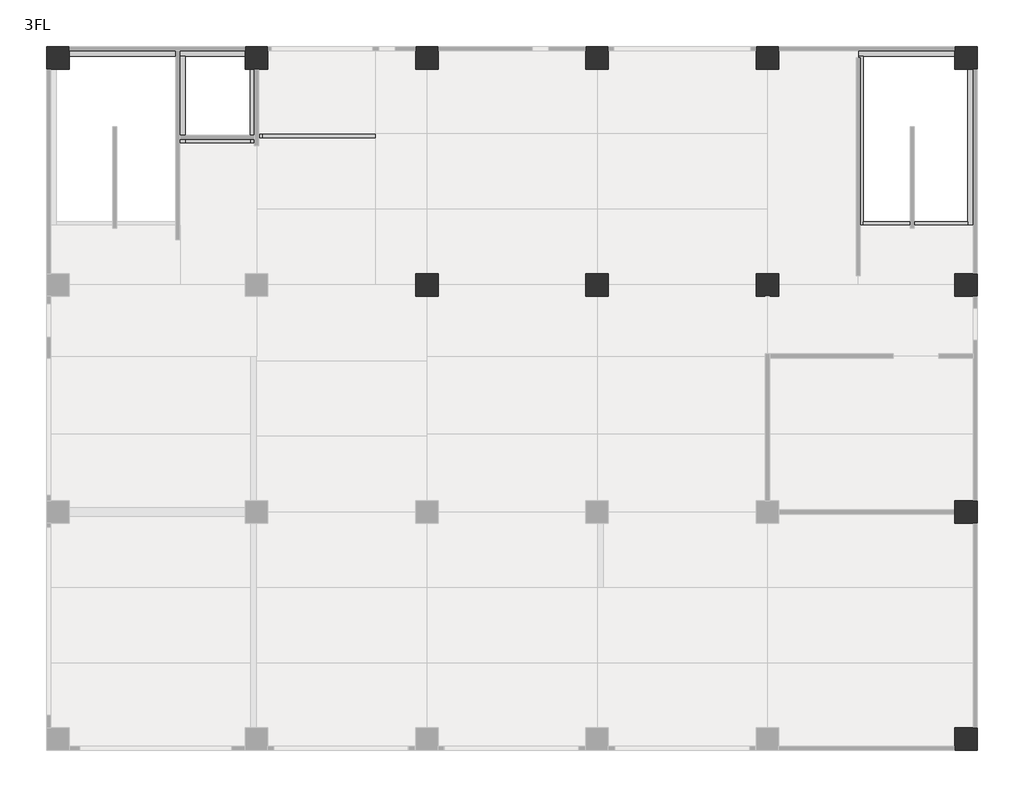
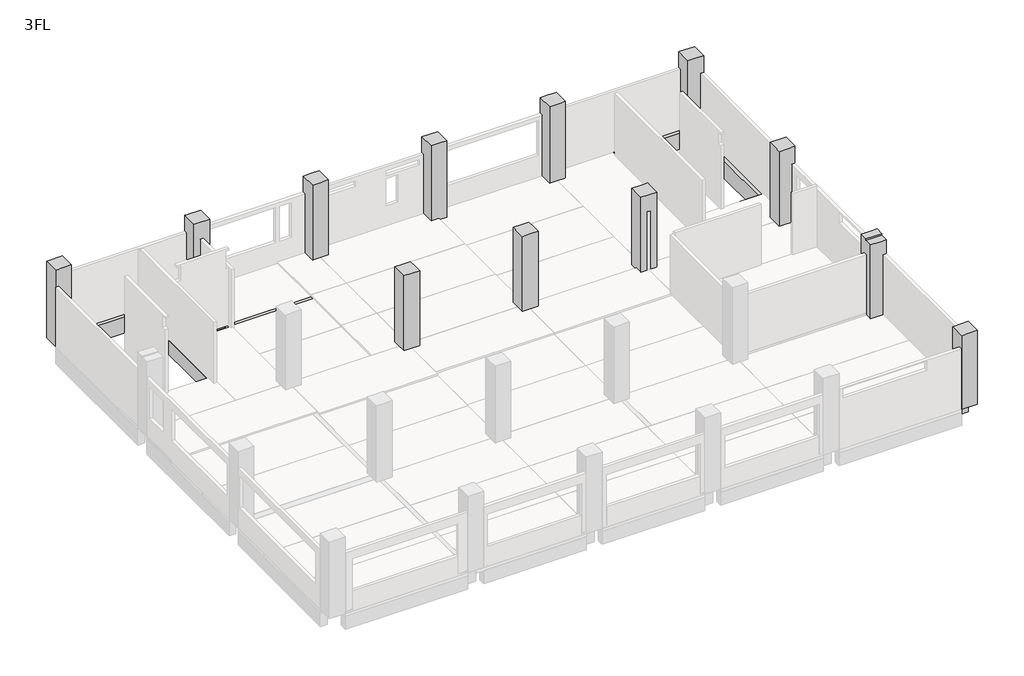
# One storey, part 4 of 4: 26 beams, 12 columns.
"""IFC4 building model written with IfcOpenShell, lengths in millimetres."""

import ifcopenshell
import ifcopenshell.guid

model = None  # the IFC model being written
_history = None  # IfcOwnerHistory: only IFC2X3 demands one
_inside = {}  # id of a spatial element -> (the spatial element, [elements in it])
_under = {}  # id of a project, library or spatial element -> (it, [spatial elements below it])
_declared = {}  # id of a project -> (the project, [libraries it declares])
_typed = {}  # id of a type object -> (the type object, [elements of that type])
_made_of = {}  # id of a material, layer set ... -> (it, [elements and type objects made of it])


def new_model(schema):
    """Start an empty IFC model of exactly this schema.

    Asked for "IFC4X3", IfcOpenShell would pick the latest addendum, in which some entities
    have other attributes; the version numbers below select the first issue.
    IFC2X3 requires an IfcOwnerHistory on every rooted entity: one is made here for all.
    """
    global model, _history
    if schema == "IFC4X3":
        model = ifcopenshell.file(schema_version=(4, 3, 0, 0))
    else:
        model = ifcopenshell.file(schema=schema)
    _inside.clear()
    _under.clear()
    _declared.clear()
    _typed.clear()
    _made_of.clear()
    _history = None
    if model.schema == "IFC2X3":
        org = make("IfcOrganization", Name="unknown")
        user = make(
            "IfcPersonAndOrganization",
            ThePerson=make("IfcPerson", FamilyName="unknown"),
            TheOrganization=org,
        )
        app = make(
            "IfcApplication",
            ApplicationDeveloper=org,
            Version="unknown",
            ApplicationFullName="unknown",
            ApplicationIdentifier="unknown",
        )
        _history = make(
            "IfcOwnerHistory",
            OwningUser=user,
            OwningApplication=app,
            ChangeAction="ADDED",
            CreationDate=0,
        )
    return model


def make(cls, **values):
    """One entity of the class cls with the attributes given. An attribute that is None is left unset."""
    return model.create_entity(
        cls, **{name: value for name, value in values.items() if value is not None}
    )


def rooted(cls, **values):
    """An entity with a GlobalId (a new one), such as an element, a storey or a relation."""
    return make(cls, GlobalId=ifcopenshell.guid.new(), OwnerHistory=_history, **values)


def si_unit(unit_type, name, prefix=None):
    """IfcSIUnit, for example si_unit("LENGTHUNIT", "METRE", prefix="MILLI")."""
    return make("IfcSIUnit", UnitType=unit_type, Prefix=prefix, Name=name)


def assignment(units):
    """IfcUnitAssignment: the units of a project."""
    return None if units is None else make("IfcUnitAssignment", Units=units)


def point(xyz):
    """IfcCartesianPoint."""
    return None if xyz is None else make("IfcCartesianPoint", Coordinates=xyz)


def direction(xyz):
    """IfcDirection."""
    return None if xyz is None else make("IfcDirection", DirectionRatios=xyz)


def frame(location, z_axis=None, x_axis=None):
    """IfcAxis2Placement3D, a coordinate frame: its origin and axes. An axis left out is left unset."""
    return make(
        "IfcAxis2Placement3D",
        Location=point(location),
        Axis=direction(z_axis),
        RefDirection=direction(x_axis),
    )


def origin():
    """The frame at (0, 0, 0) with its axes left unset."""
    return frame((0.0, 0.0, 0.0))


def place(relative_to, where):
    """IfcLocalPlacement: puts the frame where relative to a parent placement (None: the world)."""
    return make(
        "IfcLocalPlacement", PlacementRelTo=relative_to, RelativePlacement=where
    )


def context(
    kind, dimensions, precision=None, world=None, true_north=None, identifier=None
):
    """IfcGeometricRepresentationContext, for example the 3D "Model" context."""
    return make(
        "IfcGeometricRepresentationContext",
        ContextIdentifier=identifier,
        ContextType=kind,
        CoordinateSpaceDimension=dimensions,
        Precision=precision,
        WorldCoordinateSystem=world,
        TrueNorth=true_north,
    )


def project(units=None, contexts=None):
    """IfcProject with its units and contexts."""
    return rooted(
        "IfcProject",
        Name="project",
        RepresentationContexts=contexts,
        UnitsInContext=assignment(units),
    )


def spatial(cls, under=None, at=None, **own):
    """A site, building, storey or space (cls), placed at a placement, below another one or the project."""
    s = rooted(cls, ObjectPlacement=at, **own)
    if under is not None:
        _under.setdefault(under.id(), (under, []))[1].append(s)
    return s


def polyline(points):
    """IfcPolyline through the points."""
    return make("IfcPolyline", Points=[point(p) for p in points])


def outline(outer, holes=None, kind="AREA"):
    """IfcArbitraryClosedProfileDef: a profile drawn as a closed curve; with holes, ...WithVoids."""
    if holes is None:
        return make("IfcArbitraryClosedProfileDef", ProfileType=kind, OuterCurve=outer)
    return make(
        "IfcArbitraryProfileDefWithVoids",
        ProfileType=kind,
        OuterCurve=outer,
        InnerCurves=holes,
    )


def extrude(swept, where, along, depth):
    """IfcExtrudedAreaSolid: the profile swept, set in the frame where, extruded along a direction by depth."""
    return make(
        "IfcExtrudedAreaSolid",
        SweptArea=swept,
        Position=where,
        ExtrudedDirection=direction(along),
        Depth=depth,
    )


def faces_of(points, faces, orient=None, outer=None):
    """IfcFace entities. A face is a list of loops; a loop is a list of indices into points, from 0.

    orient and outer hold one flag for each loop. By default every Orientation is true, the
    first loop of a face is its IfcFaceOuterBound and the others are IfcFaceBound.
    """
    made = []
    for i, loops in enumerate(faces):
        bounds = []
        for j, loop in enumerate(loops):
            is_outer = j == 0 if outer is None else outer[i][j]
            bounds.append(
                make(
                    "IfcFaceOuterBound" if is_outer else "IfcFaceBound",
                    Bound=make("IfcPolyLoop", Polygon=[points[k] for k in loop]),
                    Orientation=True if orient is None else orient[i][j],
                )
            )
        made.append(make("IfcFace", Bounds=bounds))
    return made


def faceted_brep(points, faces, orient=None, outer=None, voids=None):
    """IfcFacetedBrep: a solid bounded by flat faces; with voids (closed shells), ...WithVoids."""
    shared = [point(p) for p in points]
    hull = make("IfcClosedShell", CfsFaces=faces_of(shared, faces, orient, outer))
    if voids is None:
        return make("IfcFacetedBrep", Outer=hull)
    return make(
        "IfcFacetedBrepWithVoids",
        Outer=hull,
        Voids=[
            make(cls, CfsFaces=faces_of(shared, fs, o, b)) for cls, fs, o, b in voids
        ],
    )


def shape(context_of_items, identifier, shape_type, items):
    """IfcShapeRepresentation: the items that make up one representation, for example the "Body"."""
    return make(
        "IfcShapeRepresentation",
        ContextOfItems=context_of_items,
        RepresentationIdentifier=identifier,
        RepresentationType=shape_type,
        Items=items,
    )


def made_of(thing, what):
    """Note that an element or type object is made of a material, layer set ...; save() writes the relation."""
    if what is not None:
        _made_of.setdefault(what.id(), (what, []))[1].append(thing)
    return thing


def element(
    cls,
    number,
    at=None,
    inside=None,
    cuts=None,
    type_object=None,
    material=None,
    context=None,
    identifier="Body",
    shape_type=None,
    held_by="IfcProductDefinitionShape",
    body=None,
    shapes=None,
    **own,
):
    """One element of the class cls, such as IfcWall. Its Tag is "e" and its number.

    at: its placement. inside: the storey or other place that contains it. cuts: it is an
    opening in that element (IfcRelVoidsElement). A single representation is given by context,
    identifier, shape_type and body (its items); several are given by shapes. held_by: the class
    of the entity that holds the representations. save() writes the other relations.
    """
    e = rooted(cls, Tag="e%d" % number, ObjectPlacement=at, **own)
    if body is not None:
        shapes = [shape(context, identifier, shape_type, body)]
    if shapes is not None:
        e.Representation = make(held_by, Representations=shapes)
    if inside is not None:
        _inside.setdefault(inside.id(), (inside, []))[1].append(e)
    if cuts is not None:
        rooted(
            "IfcRelVoidsElement", RelatingBuildingElement=cuts, RelatedOpeningElement=e
        )
    if type_object is not None:
        _typed.setdefault(type_object.id(), (type_object, []))[1].append(e)
    return made_of(e, material)


def aggregate(whole, parts):
    """IfcRelAggregates: a whole, such as a stair, and the parts it consists of."""
    return rooted("IfcRelAggregates", RelatingObject=whole, RelatedObjects=parts)


def save(model, path):
    """Write the relations noted so far, then the file.

    IfcRelAggregates (storeys below a building ...), IfcRelContainedInSpatialStructure (elements
    in a storey), IfcRelDefinesByType, IfcRelAssociatesMaterial and IfcRelDeclares: one each for
    every whole, place, type object, material and project.
    """
    for whole, parts in _under.values():
        aggregate(whole, parts)
    for where, things in _inside.values():
        rooted(
            "IfcRelContainedInSpatialStructure",
            RelatedElements=things,
            RelatingStructure=where,
        )
    for kind, things in _typed.values():
        rooted("IfcRelDefinesByType", RelatedObjects=things, RelatingType=kind)
    for what, things in _made_of.values():
        rooted("IfcRelAssociatesMaterial", RelatedObjects=things, RelatingMaterial=what)
    for by, libraries in _declared.values():
        rooted("IfcRelDeclares", RelatingContext=by, RelatedDefinitions=libraries)
    model.write(path)


model = new_model("IFC4")

# Units and contexts
model_context = context("Model", 3, world=origin())
ifc_project = project(units=[si_unit("LENGTHUNIT", "METRE", prefix="MILLI")], contexts=[model_context])

# Site, building, storey
site = spatial("IfcSite", under=ifc_project)
building = spatial("IfcBuilding", under=site)
storey = spatial("IfcBuildingStorey", under=building, Name="3FL", Elevation=8200.0)

# Beams
placement = place(None, origin())
element("IfcBeam", 1, ObjectType="RC_B : 3G1", at=placement, inside=storey, context=model_context, shape_type="Brep", body=[
    faceted_brep([(6600.0, 24400.0, 8100.0), (6600.0, 24400.0, 7250.0), (400.0, 24400.0, 7250.0), (400.0, 24400.0, 8100.0), (6600.0, 24250.0, 7250.0), (6600.0, 24050.0, 7250.0), (4294.0, 24050.0, 7250.0), (4144.0, 24050.0, 7250.0), (400.0, 24050.0, 7250.0), (400.0, 24250.0, 7250.0), (6600.0, 24050.0, 8100.0), (4494.0, 24050.0, 8100.0), (4144.0, 24050.0, 8100.0), (400.0, 24050.0, 8100.0), (6600.0, 24250.0, 8100.0), (400.0, 24250.0, 8100.0)], [[[0, 1, 2, 3]], [[1, 4, 5, 6, 7, 8, 9, 2]], [[5, 10, 11, 12, 13, 8, 7, 6]], [[10, 14, 0, 3, 15, 13, 12, 11]], [[1, 0, 14, 10, 5, 4]], [[3, 2, 9, 8, 13, 15]]]),
])
element("IfcBeam", 2, ObjectType="RC_B : 3G1", at=placement, inside=storey, context=model_context, shape_type="Brep", body=[
    faceted_brep([(12600.0, 24400.0, 8040.0), (12600.0, 24400.0, 7250.0), (7400.0, 24400.0, 7250.0), (7400.0, 24400.0, 7950.0), (11200.0, 24400.0, 7950.0), (11200.0, 24400.0, 8040.0), (12600.0, 24250.0, 7250.0), (12600.0, 24050.0, 7250.0), (7400.0, 24050.0, 7250.0), (7400.0, 24250.0, 7250.0), (12600.0, 24050.0, 8040.0), (11200.0, 24050.0, 8040.0), (11200.0, 24050.0, 7950.0), (7400.0, 24050.0, 7950.0)], [[[0, 1, 2, 3, 4, 5]], [[1, 6, 7, 8, 9, 2]], [[7, 10, 11, 12, 13, 8]], [[7, 6, 1, 0, 10]], [[0, 5, 11, 10]], [[12, 4, 3, 13]], [[4, 12, 11, 5]], [[3, 2, 9, 8, 13]]]),
])
element("IfcBeam", 3, ObjectType="RC_B : 3G1", at=placement, inside=storey, context=model_context, shape_type="Brep", body=[
    faceted_brep([(18600.0, 24400.0, 8040.0), (18600.0, 24400.0, 7250.0), (13400.0, 24400.0, 7250.0), (13400.0, 24400.0, 8040.0), (18600.0, 24250.0, 7250.0), (18600.0, 24050.0, 7250.0), (13400.0, 24050.0, 7250.0), (13400.0, 24250.0, 7250.0), (18600.0, 24050.0, 8040.0), (13400.0, 24050.0, 8040.0)], [[[0, 1, 2, 3]], [[1, 4, 5, 6, 7, 2]], [[5, 8, 9, 6]], [[5, 4, 1, 0, 8]], [[8, 0, 3, 9]], [[3, 2, 7, 6, 9]]]),
])
element("IfcBeam", 4, ObjectType="RC_B : 3G1", at=placement, inside=storey, context=model_context, shape_type="Brep", body=[
    faceted_brep([(24600.0, 24400.0, 7950.0), (24600.0, 24400.0, 7250.0), (19400.0, 24400.0, 7250.0), (19400.0, 24400.0, 7950.0), (24600.0, 24250.0, 7250.0), (24600.0, 24050.0, 7250.0), (19400.0, 24050.0, 7250.0), (19400.0, 24250.0, 7250.0), (24600.0, 24050.0, 7950.0), (19400.0, 24050.0, 7950.0)], [[[0, 1, 2, 3]], [[1, 4, 5, 6, 7, 2]], [[5, 8, 9, 6]], [[5, 4, 1, 0, 8]], [[8, 0, 3, 9]], [[3, 2, 7, 6, 9]]]),
])
element("IfcBeam", 5, ObjectType="RC_B : 3G1", at=placement, inside=storey, context=model_context, shape_type="Brep", body=[
    faceted_brep([(31600.0, 24400.0, 8100.0), (31600.0, 24400.0, 7250.0), (25400.0, 24400.0, 7250.0), (25400.0, 24400.0, 7950.0), (28199.0, 24400.0, 7950.0), (28199.0, 24400.0, 8100.0), (31600.0, 24250.0, 7250.0), (31600.0, 24050.0, 7250.0), (25400.0, 24050.0, 7250.0), (25400.0, 24250.0, 7250.0), (31600.0, 24050.0, 8100.0), (28374.0, 24050.0, 8100.0), (28199.0, 24050.0, 8100.0), (28199.0, 24050.0, 7950.0), (28024.0, 24050.0, 7950.0), (25400.0, 24050.0, 7950.0), (31600.0, 24250.0, 8100.0)], [[[0, 1, 2, 3, 4, 5]], [[1, 6, 7, 8, 9, 2]], [[7, 10, 11, 12, 13, 14, 15, 8]], [[10, 16, 0, 5, 12, 11]], [[1, 0, 16, 10, 7, 6]], [[13, 4, 3, 15, 14]], [[4, 13, 12, 5]], [[3, 2, 9, 8, 15]]]),
])
element("IfcBeam", 6, ObjectType="RC_B : 3G11", at=placement, inside=storey, context=model_context, shape_type="Brep", body=[
    faceted_brep([(32050.0, 7600.0, 7950.0), (32050.0, 7600.0, 7200.0), (32050.0, 400.0, 7200.0), (32050.0, 400.0, 7950.0), (32050.0, 2485.0, 7950.0), (32050.0, 2835.0, 7950.0), (32050.0, 5155.0, 7950.0), (32050.0, 5505.0, 7950.0), (32250.0, 7600.0, 7200.0), (32400.0, 7600.0, 7200.0), (32400.0, 400.0, 7200.0), (32250.0, 400.0, 7200.0), (32400.0, 7600.0, 7950.0), (32400.0, 5328.0, 7950.0), (32400.0, 2664.0, 7950.0), (32400.0, 400.0, 7950.0)], [[[0, 1, 2, 3, 4, 5, 6, 7]], [[1, 8, 9, 10, 11, 2]], [[9, 12, 13, 14, 15, 10]], [[9, 8, 1, 0, 12]], [[12, 0, 7, 6, 5, 4, 3, 15, 14, 13]], [[3, 2, 11, 10, 15]]]),
])
element("IfcBeam", 7, ObjectType="RC_B : 3G11", at=placement, inside=storey, context=model_context, shape_type="Brep", body=[
    faceted_brep([(32050.0, 15600.0, 8040.0), (32050.0, 15600.0, 7200.0), (32050.0, 13575.0, 7200.0), (32050.0, 13575.0, 7350.0), (32050.0, 13425.0, 7350.0), (32050.0, 13425.0, 7200.0), (32050.0, 8400.0, 7200.0), (32050.0, 8400.0, 8040.0), (32050.0, 10575.0, 8040.0), (32050.0, 10925.0, 8040.0), (32050.0, 13325.0, 8040.0), (32050.0, 13675.0, 8040.0), (32250.0, 15600.0, 7200.0), (32400.0, 15600.0, 7200.0), (32400.0, 8400.0, 7200.0), (32250.0, 8400.0, 7200.0), (32250.0, 13425.0, 7200.0), (32250.0, 13575.0, 7200.0), (32400.0, 15600.0, 8040.0), (32400.0, 13496.0, 8040.0), (32400.0, 10748.0, 8040.0), (32400.0, 8400.0, 8040.0), (32250.0, 13575.0, 7350.0), (32250.0, 13425.0, 7350.0)], [[[0, 1, 2, 3, 4, 5, 6, 7, 8, 9, 10, 11]], [[1, 12, 13, 14, 15, 6, 5, 16, 17, 2]], [[13, 18, 19, 20, 21, 14]], [[13, 12, 1, 0, 18]], [[18, 0, 11, 10, 9, 8, 7, 21, 20, 19]], [[7, 6, 15, 14, 21]], [[17, 22, 3, 2]], [[4, 23, 16, 5]], [[22, 23, 4, 3]], [[23, 22, 17, 16]]]),
])
element("IfcBeam", 8, ObjectType="RC_B : 3G11", at=placement, inside=storey, context=model_context, shape_type="Brep", body=[
    faceted_brep([(32050.0, 23600.0, 8100.0), (32050.0, 23600.0, 7200.0), (32050.0, 16400.0, 7200.0), (32050.0, 16400.0, 8040.0), (32050.0, 17975.0, 8040.0), (32050.0, 18100.0, 8040.0), (32050.0, 18100.0, 8100.0), (32050.0, 18225.0, 8100.0), (32250.0, 23600.0, 7200.0), (32400.0, 23600.0, 7200.0), (32400.0, 16400.0, 7200.0), (32250.0, 16400.0, 7200.0), (32400.0, 23600.0, 8100.0), (32400.0, 18100.0, 8100.0), (32400.0, 18100.0, 8040.0), (32400.0, 16400.0, 8040.0), (32250.0, 23600.0, 8100.0), (32250.0, 18100.0, 8100.0)], [[[0, 1, 2, 3, 4, 5, 6, 7]], [[1, 8, 9, 10, 11, 2]], [[9, 12, 13, 14, 15, 10]], [[12, 16, 0, 7, 6, 17, 13]], [[1, 0, 16, 12, 9, 8]], [[14, 5, 4, 3, 15]], [[5, 14, 13, 17, 6]], [[3, 2, 11, 10, 15]]]),
])
element("IfcBeam", 9, ObjectType="RC_B : 3G12", at=placement, inside=storey, context=model_context, shape_type="Brep", body=[
    faceted_brep([(6775.0, 23600.0, 8100.0), (6775.0, 23600.0, 7200.0), (6775.0, 21275.0, 7200.0), (6775.0, 21125.0, 7200.0), (6775.0, 16000.0, 7200.0), (6775.0, 16000.0, 7250.0), (6775.0, 16175.0, 7250.0), (6775.0, 16175.0, 8040.0), (6775.0, 21000.0, 8040.0), (6775.0, 21000.0, 8100.0), (6775.0, 21125.0, 8100.0), (6775.0, 21275.0, 8100.0), (6925.0, 23600.0, 7200.0), (7075.0, 23600.0, 7200.0), (7225.0, 23600.0, 7200.0), (7225.0, 16000.0, 7200.0), (7225.0, 23600.0, 7950.0), (7225.0, 21515.0, 7950.0), (7225.0, 21328.0, 7950.0), (7225.0, 18845.0, 7950.0), (7225.0, 18495.0, 7950.0), (7225.0, 16175.0, 7950.0), (7225.0, 16000.0, 7950.0), (6925.0, 23600.0, 8100.0), (7000.0, 23600.0, 8100.0), (7000.0, 23600.0, 7950.0), (7000.0, 16000.0, 7950.0), (7000.0, 16000.0, 7250.0), (7000.0, 16175.0, 7250.0), (7000.0, 16175.0, 7950.0), (7000.0, 16175.0, 8040.0), (7000.0, 21328.0, 7950.0), (7000.0, 18664.0, 7950.0), (7000.0, 21000.0, 8100.0), (7000.0, 21000.0, 8040.0), (7000.0, 16400.0, 8040.0), (7000.0, 21328.0, 8100.0), (6912.3, 21000.0, 8040.0)], [[[0, 1, 2, 3, 4, 5, 6, 7, 8, 9, 10, 11]], [[1, 12, 13, 14, 15, 4, 3, 2]], [[15, 14, 16, 17, 18, 19, 20, 21, 22]], [[14, 13, 12, 1, 0, 23, 24, 25, 16]], [[4, 15, 22, 26, 27, 5]], [[6, 28, 29, 30, 7]], [[28, 6, 5, 27]], [[28, 27, 26, 29]], [[26, 22, 21, 20, 19, 18, 17, 16, 25, 31, 32, 29]], [[33, 34, 35, 30, 29, 32, 31, 25, 24, 36]], [[34, 37, 8, 7, 30, 35]], [[8, 37, 34, 33, 9]], [[0, 11, 10, 9, 33, 36, 24, 23]]]),
])
element("IfcBeam", 10, ObjectType="RC_B : 3G12", at=placement, inside=storey, context=model_context, shape_type="Brep", body=[
    faceted_brep([(12775.0, 23600.0, 7200.0), (12775.0, 16000.0, 7200.0), (12775.0, 16000.0, 7250.0), (12775.0, 16175.0, 7250.0), (12775.0, 16175.0, 8040.0), (12775.0, 18664.0, 8040.0), (12775.0, 18845.0, 8040.0), (12775.0, 21165.0, 8040.0), (12775.0, 21328.0, 8040.0), (12775.0, 23600.0, 8040.0), (13225.0, 23600.0, 7200.0), (13225.0, 16000.0, 7200.0), (13225.0, 23600.0, 8040.0), (13225.0, 23600.0, 8100.0), (13225.0, 21515.0, 8100.0), (13225.0, 21165.0, 8100.0), (13225.0, 18845.0, 8100.0), (13225.0, 18495.0, 8100.0), (13225.0, 16400.0, 8100.0), (13225.0, 16175.0, 8100.0), (13225.0, 16000.0, 8100.0), (13225.0, 16000.0, 8040.0), (13000.0, 23600.0, 8100.0), (13000.0, 21328.0, 8100.0), (13000.0, 18664.0, 8100.0), (13000.0, 16400.0, 8100.0), (13000.0, 16000.0, 8100.0), (13000.0, 23600.0, 8040.0), (13000.0, 16000.0, 7250.0), (13000.0, 16175.0, 7250.0), (13000.0, 16175.0, 8040.0), (13000.0, 21515.0, 8040.0), (13000.0, 21328.0, 8040.0), (13000.0, 18664.0, 8040.0), (13000.0, 18495.0, 8040.0), (13000.0, 16400.0, 8040.0)], [[[0, 1, 2, 3, 4, 5, 6, 7, 8, 9]], [[0, 10, 11, 1]], [[10, 12, 13, 14, 15, 16, 17, 18, 19, 20, 21, 11]], [[20, 19, 18, 17, 16, 15, 14, 13, 22, 23, 24, 25, 26]], [[10, 0, 9, 27, 22, 13, 12]], [[1, 11, 21, 20, 26, 28, 2]], [[3, 29, 30, 4]], [[29, 3, 2, 28]], [[29, 28, 26, 25, 24, 23, 22, 27, 31, 32, 33, 34, 35, 30]], [[30, 35, 34, 33, 32, 31, 27, 9, 8, 7, 6, 5, 4]]]),
])
element("IfcBeam", 11, ObjectType="RC_B : 3G12", at=placement, inside=storey, context=model_context, shape_type="Brep", body=[
    faceted_brep([(18775.0, 23600.0, 8100.0), (18775.0, 23600.0, 8040.0), (18775.0, 23600.0, 7200.0), (18775.0, 16000.0, 7200.0), (18775.0, 16000.0, 7250.0), (18775.0, 16175.0, 7250.0), (18775.0, 16175.0, 8100.0), (18775.0, 16400.0, 8100.0), (18775.0, 18495.0, 8100.0), (18775.0, 18845.0, 8100.0), (18775.0, 21165.0, 8100.0), (18775.0, 21515.0, 8100.0), (19225.0, 23600.0, 7200.0), (19225.0, 16000.0, 7200.0), (19225.0, 23600.0, 7950.0), (19225.0, 21515.0, 7950.0), (19225.0, 21165.0, 7950.0), (19225.0, 18845.0, 7950.0), (19225.0, 18495.0, 7950.0), (19225.0, 16175.0, 7950.0), (19225.0, 16000.0, 7950.0), (19000.0, 16175.0, 8100.0), (19000.0, 16400.0, 8100.0), (19000.0, 18664.0, 8100.0), (19000.0, 21328.0, 8100.0), (19000.0, 23600.0, 8100.0), (19000.0, 23600.0, 7950.0), (19000.0, 16000.0, 7950.0), (19000.0, 16000.0, 7250.0), (19000.0, 16175.0, 7250.0), (19000.0, 16175.0, 7950.0), (19000.0, 21328.0, 7950.0), (19000.0, 18664.0, 7950.0), (19000.0, 16400.0, 7950.0)], [[[0, 1, 2, 3, 4, 5, 6, 7, 8, 9, 10, 11]], [[2, 12, 13, 3]], [[13, 12, 14, 15, 16, 17, 18, 19, 20]], [[0, 11, 10, 9, 8, 7, 6, 21, 22, 23, 24, 25]], [[12, 2, 1, 0, 25, 26, 14]], [[3, 13, 20, 27, 28, 4]], [[5, 29, 30, 21, 6]], [[29, 5, 4, 28]], [[29, 28, 27, 30]], [[27, 20, 19, 18, 17, 16, 15, 14, 26, 31, 32, 33, 30]], [[21, 30, 33, 32, 31, 26, 25, 24, 23, 22]]]),
])
element("IfcBeam", 12, ObjectType="RC_B : 3G12", at=placement, inside=storey, context=model_context, shape_type="Brep", body=[
    faceted_brep([(24775.0, 23600.0, 7200.0), (24775.0, 16000.0, 7200.0), (24775.0, 16000.0, 7250.0), (24775.0, 16175.0, 7250.0), (24775.0, 16175.0, 7950.0), (24775.0, 18495.0, 7950.0), (24775.0, 18845.0, 7950.0), (24775.0, 21165.0, 7950.0), (24775.0, 21515.0, 7950.0), (24775.0, 23600.0, 7950.0), (25225.0, 23600.0, 7200.0), (25225.0, 16000.0, 7200.0), (25225.0, 23600.0, 7950.0), (25225.0, 16175.0, 7950.0), (25225.0, 16000.0, 7950.0), (25000.0, 16000.0, 7950.0), (25000.0, 16000.0, 7250.0), (25000.0, 16175.0, 7250.0), (25000.0, 16175.0, 7950.0)], [[[0, 1, 2, 3, 4, 5, 6, 7, 8, 9]], [[0, 10, 11, 1]], [[11, 10, 12, 13, 14]], [[10, 0, 9, 12]], [[1, 11, 14, 15, 16, 2]], [[3, 17, 18, 4]], [[17, 3, 2, 16]], [[17, 16, 15, 18]], [[4, 18, 15, 14, 13, 12, 9, 8, 7, 6, 5]]]),
])
element("IfcBeam", 13, ObjectType="RC_B : 3G2", at=placement, inside=storey, context=model_context, shape_type="Brep", body=[
    faceted_brep([(12600.0, 16175.0, 7250.0), (7225.0, 16175.0, 7250.0), (7225.0, 16175.0, 7950.0), (11200.0, 16175.0, 7950.0), (11200.0, 16175.0, 8040.0), (12600.0, 16175.0, 8040.0), (12600.0, 15825.0, 7250.0), (7225.0, 15825.0, 7250.0), (12600.0, 15825.0, 8040.0), (7225.0, 15825.0, 8040.0), (12600.0, 16000.0, 8040.0), (7225.0, 16000.0, 8040.0), (7225.0, 16000.0, 7950.0), (11200.0, 16000.0, 8040.0), (7400.0, 16000.0, 8040.0), (11200.0, 16000.0, 7950.0)], [[[0, 1, 2, 3, 4, 5]], [[0, 6, 7, 1]], [[7, 6, 8, 9]], [[6, 0, 5, 10, 8]], [[1, 7, 9, 11, 12, 2]], [[9, 8, 10, 5, 4, 13, 14, 11]], [[15, 3, 2, 12]], [[13, 15, 12, 11, 14]], [[15, 13, 4, 3]]]),
])
element("IfcBeam", 14, ObjectType="RC_B : 3G2", at=placement, inside=storey, context=model_context, shape_type="Brep", body=[
    faceted_brep([(18600.0, 16175.0, 8100.0), (18600.0, 16175.0, 8040.0), (18600.0, 16175.0, 7250.0), (13225.0, 16175.0, 7250.0), (13225.0, 16175.0, 8100.0), (13400.0, 16175.0, 8100.0), (18600.0, 15825.0, 7250.0), (13225.0, 15825.0, 7250.0), (18600.0, 15825.0, 8040.0), (13225.0, 15825.0, 8040.0), (13225.0, 16000.0, 8100.0), (13400.0, 16000.0, 8100.0), (18600.0, 16000.0, 8100.0), (18600.0, 16000.0, 8040.0), (13225.0, 16000.0, 8040.0), (13400.0, 16000.0, 8040.0)], [[[0, 1, 2, 3, 4, 5]], [[2, 6, 7, 3]], [[7, 6, 8, 9]], [[0, 5, 4, 10, 11, 12]], [[2, 1, 0, 12, 13, 8, 6]], [[4, 3, 7, 9, 14, 10]], [[13, 15, 14, 9, 8]], [[14, 15, 13, 12, 11, 10]]]),
])
element("IfcBeam", 15, ObjectType="RC_B : 3G2", at=placement, inside=storey, context=model_context, shape_type="Brep", body=[
    faceted_brep([(24600.0, 16175.0, 7250.0), (19225.0, 16175.0, 7250.0), (19225.0, 16175.0, 7950.0), (24600.0, 16175.0, 7950.0), (24600.0, 15825.0, 7250.0), (19225.0, 15825.0, 7250.0), (24600.0, 15825.0, 8040.0), (19225.0, 15825.0, 8040.0), (24600.0, 16000.0, 7950.0), (24600.0, 16000.0, 8040.0), (19225.0, 16000.0, 8040.0), (19225.0, 16000.0, 7950.0), (19400.0, 16000.0, 8040.0), (19400.0, 16000.0, 7950.0)], [[[0, 1, 2, 3]], [[0, 4, 5, 1]], [[5, 4, 6, 7]], [[4, 0, 3, 8, 9, 6]], [[1, 5, 7, 10, 11, 2]], [[7, 6, 9, 12, 10]], [[11, 13, 8, 3, 2]], [[8, 13, 11, 10, 12, 9]]]),
])
element("IfcBeam", 16, ObjectType="RC_B : 3G2", at=placement, inside=storey, context=model_context, shape_type="Brep", body=[
    faceted_brep([(31600.0, 16175.0, 7250.0), (25225.0, 16175.0, 7250.0), (25225.0, 16175.0, 7950.0), (28024.0, 16175.0, 7950.0), (28199.0, 16175.0, 7950.0), (28199.0, 16175.0, 8040.0), (31600.0, 16175.0, 8040.0), (31600.0, 15825.0, 7250.0), (25225.0, 15825.0, 7250.0), (31600.0, 15825.0, 8040.0), (25225.0, 15825.0, 8040.0), (31600.0, 16000.0, 8040.0), (25225.0, 16000.0, 8040.0), (25225.0, 16000.0, 7950.0), (28199.0, 16000.0, 8040.0), (25400.0, 16000.0, 8040.0), (25400.0, 16000.0, 7950.0), (28199.0, 16000.0, 7950.0)], [[[0, 1, 2, 3, 4, 5, 6]], [[0, 7, 8, 1]], [[8, 7, 9, 10]], [[7, 0, 6, 11, 9]], [[1, 8, 10, 12, 13, 2]], [[10, 9, 11, 6, 5, 14, 15, 12]], [[13, 16, 17, 4, 3, 2]], [[14, 17, 16, 13, 12, 15]], [[17, 14, 5, 4]]]),
])
element("IfcBeam", 17, ObjectType="RC_B : B1", at=placement, inside=storey, context=model_context, shape_type="Brep", body=[
    faceted_brep([(7225.0, 18845.0, 7350.0), (7225.0, 18845.0, 7950.0), (11200.0, 18845.0, 7950.0), (11200.0, 18845.0, 8040.0), (12775.0, 18845.0, 8040.0), (12775.0, 18845.0, 7350.0), (7225.0, 18495.0, 7350.0), (12775.0, 18495.0, 7350.0), (7225.0, 18495.0, 7950.0), (12775.0, 18495.0, 8100.0), (11200.0, 18495.0, 8100.0), (11200.0, 18495.0, 8040.0), (11200.0, 18495.0, 7950.0), (11200.0, 18664.0, 7950.0), (11200.0, 18664.0, 8100.0), (11200.0, 18664.0, 8040.0), (12775.0, 18664.0, 8040.0), (12775.0, 18664.0, 8100.0)], [[[0, 1, 2, 3, 4, 5]], [[6, 0, 5, 7]], [[8, 6, 7, 9, 10, 11, 12]], [[0, 6, 8, 1]], [[8, 12, 13, 2, 1]], [[12, 11, 10, 14, 15, 3, 2, 13]], [[3, 15, 16, 4]], [[15, 14, 17, 16]], [[14, 10, 9, 17]], [[5, 4, 16, 17, 9, 7]]]),
])
element("IfcBeam", 18, ObjectType="RC_B : B1", at=placement, inside=storey, context=model_context, shape_type="Brep", body=[
    faceted_brep([(7225.0, 21515.0, 7350.0), (7225.0, 21515.0, 7950.0), (11200.0, 21515.0, 7950.0), (11200.0, 21515.0, 8040.0), (11200.0, 21515.0, 8100.0), (12775.0, 21515.0, 8100.0), (12775.0, 21515.0, 7350.0), (7225.0, 21165.0, 7350.0), (12775.0, 21165.0, 7350.0), (7225.0, 21165.0, 8100.0), (12775.0, 21165.0, 8040.0), (11200.0, 21165.0, 8040.0), (11200.0, 21165.0, 8100.0), (11200.0, 21328.0, 8100.0), (12775.0, 21328.0, 8100.0), (7225.0, 21328.0, 8100.0), (7225.0, 21328.0, 7950.0), (11200.0, 21328.0, 8040.0), (12775.0, 21328.0, 8040.0), (11200.0, 21328.0, 7950.0), (11200.0, 21328.0, 8040.0)], [[[0, 1, 2, 3, 4, 5, 6]], [[7, 0, 6, 8]], [[9, 7, 8, 10, 11, 12]], [[4, 13, 14, 5]], [[0, 7, 9, 15, 16, 1]], [[17, 11, 10, 18]], [[13, 17, 18, 14]], [[16, 19, 2, 1]], [[20, 13, 4, 3, 2, 19]], [[13, 20, 19, 16, 15]], [[11, 17, 13, 12]], [[12, 13, 15, 9]], [[6, 5, 14, 18, 10, 8]]]),
])
element("IfcBeam", 19, ObjectType="RC_B : B1", at=placement, inside=storey, context=model_context, shape_type="Brep", body=[
    faceted_brep([(18775.0, 18845.0, 8100.0), (18775.0, 18845.0, 8040.0), (18775.0, 18845.0, 7350.0), (13225.0, 18845.0, 7350.0), (13225.0, 18845.0, 8040.0), (13225.0, 18845.0, 8100.0), (18775.0, 18495.0, 7350.0), (13225.0, 18495.0, 7350.0), (18775.0, 18495.0, 8040.0), (18775.0, 18495.0, 8100.0), (13225.0, 18495.0, 8100.0), (13225.0, 18495.0, 8040.0)], [[[0, 1, 2, 3, 4, 5]], [[2, 6, 7, 3]], [[6, 8, 9, 10, 11, 7]], [[9, 0, 5, 10]], [[2, 1, 0, 9, 8, 6]], [[5, 4, 3, 7, 11, 10]]]),
])
element("IfcBeam", 20, ObjectType="RC_B : B1", at=placement, inside=storey, context=model_context, shape_type="Brep", body=[
    faceted_brep([(18775.0, 21515.0, 8100.0), (18775.0, 21515.0, 8040.0), (18775.0, 21515.0, 7350.0), (13225.0, 21515.0, 7350.0), (13225.0, 21515.0, 8040.0), (13225.0, 21515.0, 8100.0), (18775.0, 21165.0, 7350.0), (13225.0, 21165.0, 7350.0), (18775.0, 21165.0, 8040.0), (18775.0, 21165.0, 8100.0), (13225.0, 21165.0, 8100.0), (13225.0, 21165.0, 8040.0)], [[[0, 1, 2, 3, 4, 5]], [[2, 6, 7, 3]], [[6, 8, 9, 10, 11, 7]], [[9, 0, 5, 10]], [[2, 1, 0, 9, 8, 6]], [[5, 4, 3, 7, 11, 10]]]),
])
element("IfcBeam", 21, ObjectType="RC_B : B1", at=placement, inside=storey, context=model_context, shape_type="SweptSolid", body=[
    extrude(outline(polyline([(19225.0, 18495.0), (19225.0, 18845.0), (24775.0, 18845.0), (24775.0, 18495.0), (19225.0, 18495.0)])), frame((0.0, 0.0, 7350.0), z_axis=(0.0, 0.0, 1.0), x_axis=(1.0, 0.0, 0.0)), (0.0, 0.0, 1.0), 600.0),
])
element("IfcBeam", 22, ObjectType="RC_B : B1", at=placement, inside=storey, context=model_context, shape_type="SweptSolid", body=[
    extrude(outline(polyline([(19225.0, 21165.0), (19225.0, 21515.0), (24775.0, 21515.0), (24775.0, 21165.0), (19225.0, 21165.0)])), frame((0.0, 0.0, 7350.0), z_axis=(0.0, 0.0, 1.0), x_axis=(1.0, 0.0, 0.0)), (0.0, 0.0, 1.0), 600.0),
])
element("IfcBeam", 23, ObjectType="RC_B : B3", at=placement, inside=storey, context=model_context, shape_type="Brep", body=[
    faceted_brep([(6775.0, 21125.0, 8100.0), (6775.0, 21125.0, 7500.0), (4494.0, 21125.0, 7500.0), (4494.0, 21125.0, 8100.0), (6775.0, 20875.0, 7500.0), (4494.0, 20875.0, 7500.0), (6775.0, 20875.0, 8100.0), (4494.0, 20875.0, 8100.0), (6775.0, 21000.0, 8100.0)], [[[0, 1, 2, 3]], [[1, 4, 5, 2]], [[4, 6, 7, 5]], [[6, 8, 0, 3, 7]], [[1, 0, 8, 6, 4]], [[3, 2, 5, 7]]]),
])
element("IfcBeam", 24, ObjectType="RC_B : B3", at=placement, inside=storey, context=model_context, shape_type="Brep", body=[
    faceted_brep([(28374.0, 18225.0, 7500.0), (28374.0, 18225.0, 8100.0), (30025.0, 18225.0, 8100.0), (30175.0, 18225.0, 8100.0), (32050.0, 18225.0, 8100.0), (32050.0, 18225.0, 7500.0), (30175.0, 18225.0, 7500.0), (30025.0, 18225.0, 7500.0), (28374.0, 17975.0, 7500.0), (32050.0, 17975.0, 7500.0), (32050.0, 17975.0, 8040.0), (28374.0, 17975.0, 8040.0), (28374.0, 18100.0, 8100.0), (32050.0, 18100.0, 8100.0), (28374.0, 18100.0, 8040.0), (32050.0, 18100.0, 8040.0)], [[[0, 1, 2, 3, 4, 5, 6, 7]], [[8, 0, 7, 6, 5, 9]], [[8, 9, 10, 11]], [[4, 3, 2, 1, 12, 13]], [[1, 0, 8, 11, 14, 12]], [[5, 4, 13, 15, 10, 9]], [[15, 14, 11, 10]], [[14, 15, 13, 12]]]),
])
element("IfcBeam", 25, ObjectType="RC_B : B4", at=placement, inside=storey, context=model_context, shape_type="Brep", body=[
    faceted_brep([(4144.0, 16175.0, 7350.0), (4144.0, 16175.0, 8100.0), (4144.0, 17600.0, 8100.0), (4144.0, 18100.0, 8100.0), (4144.0, 18225.0, 8100.0), (4144.0, 24050.0, 8100.0), (4144.0, 24050.0, 7350.0), (4144.0, 17600.0, 7350.0), (4494.0, 16175.0, 7350.0), (4294.0, 24050.0, 7350.0), (4494.0, 24050.0, 7350.0), (4494.0, 21275.0, 7350.0), (4494.0, 21125.0, 7350.0), (4494.0, 16175.0, 8100.0), (4494.0, 24050.0, 8100.0), (4494.0, 21275.0, 8100.0), (4494.0, 21125.0, 8100.0), (4494.0, 20875.0, 8100.0)], [[[0, 1, 2, 3, 4, 5, 6, 7]], [[8, 0, 7, 6, 9, 10, 11, 12]], [[13, 8, 12, 11, 10, 14, 15, 16, 17]], [[1, 13, 17, 16, 15, 14, 5, 4, 3, 2]], [[1, 0, 8, 13]], [[6, 5, 14, 10, 9]]]),
])
element("IfcBeam", 26, ObjectType="RC_B : B4", at=placement, inside=storey, context=model_context, shape_type="Brep", body=[
    faceted_brep([(28024.0, 24050.0, 7350.0), (28024.0, 16175.0, 7350.0), (28024.0, 16175.0, 7950.0), (28024.0, 24050.0, 7950.0), (28374.0, 16175.0, 7350.0), (28374.0, 24050.0, 7350.0), (28374.0, 16175.0, 8100.0), (28374.0, 24050.0, 8100.0), (28374.0, 18225.0, 8100.0), (28374.0, 18100.0, 8100.0), (28199.0, 24050.0, 8100.0), (28199.0, 16175.0, 8100.0), (28199.0, 16175.0, 8040.0), (28199.0, 16175.0, 7950.0), (28199.0, 24050.0, 7950.0)], [[[0, 1, 2, 3]], [[4, 1, 0, 5]], [[6, 4, 5, 7, 8, 9]], [[6, 9, 8, 7, 10, 11]], [[1, 4, 6, 11, 12, 13, 2]], [[5, 0, 3, 14, 10, 7]], [[13, 14, 3, 2]], [[14, 13, 12, 11, 10]]]),
])

# Columns
element("IfcColumn", 27, ObjectType="RC_C_B : 3C1", at=placement, inside=storey, context=model_context, shape_type="Brep", body=[
    faceted_brep([(32400.0, 8400.0, 8100.0), (32400.0, 7600.0, 8100.0), (32250.0, 7600.0, 8100.0), (31600.0, 7600.0, 8100.0), (31600.0, 7925.0, 8100.0), (31600.0, 8075.0, 8100.0), (31600.0, 8400.0, 8100.0), (32400.0, 8400.0, 8190.0), (32400.0, 8400.0, 11300.0), (32400.0, 8400.0, 12140.0), (32400.0, 8000.0, 12140.0), (32400.0, 8000.0, 12050.0), (32400.0, 7600.0, 12050.0), (32400.0, 7600.0, 11300.0), (32050.0, 7600.0, 12050.0), (31600.0, 7600.0, 12050.0), (31600.0, 7825.0, 12050.0), (31600.0, 8000.0, 12050.0), (31600.0, 8000.0, 12140.0), (31600.0, 8175.0, 12140.0), (31600.0, 8400.0, 12140.0), (31600.0, 8400.0, 8190.0), (32050.0, 8400.0, 12140.0)], [[[0, 1, 2, 3, 4, 5, 6]], [[1, 0, 7, 8, 9, 10, 11, 12, 13]], [[3, 2, 1, 13, 12, 14, 15]], [[6, 5, 4, 3, 15, 16, 17, 18, 19, 20, 21]], [[0, 6, 21, 20, 22, 9, 8, 7]], [[11, 17, 16, 15, 14, 12]], [[17, 11, 10, 18]], [[10, 9, 22, 20, 19, 18]]]),
])
element("IfcColumn", 28, ObjectType="RC_C_B : 3C1", at=placement, inside=storey, context=model_context, shape_type="Brep", body=[
    faceted_brep([(13400.0, 16400.0, 8100.0), (13400.0, 16175.0, 8100.0), (13400.0, 16000.0, 8100.0), (13400.0, 15600.0, 8100.0), (12600.0, 15600.0, 8100.0), (12600.0, 16400.0, 8100.0), (13000.0, 16400.0, 8100.0), (13225.0, 16400.0, 8100.0), (13400.0, 16400.0, 12200.0), (13400.0, 16000.0, 12200.0), (13400.0, 15600.0, 12200.0), (13400.0, 15600.0, 12140.0), (13400.0, 15600.0, 8190.0), (13400.0, 16400.0, 8190.0), (13400.0, 16400.0, 12140.0), (13000.0, 15600.0, 12200.0), (12600.0, 15600.0, 12200.0), (12600.0, 15600.0, 12140.0), (12600.0, 15600.0, 8190.0), (12600.0, 16000.0, 12200.0), (12600.0, 16400.0, 12200.0), (12600.0, 16400.0, 12140.0), (12600.0, 16400.0, 8190.0), (13000.0, 16400.0, 12200.0)], [[[0, 1, 2, 3, 4, 5, 6, 7]], [[8, 9, 10, 11, 12, 3, 2, 1, 0, 13, 14]], [[10, 15, 16, 17, 18, 4, 3, 12, 11]], [[16, 19, 20, 21, 22, 5, 4, 18, 17]], [[20, 23, 8, 14, 13, 0, 7, 6, 5, 22, 21]], [[8, 23, 20, 19, 16, 15, 10, 9]]]),
])
element("IfcColumn", 29, ObjectType="RC_C_B : 3C1", at=placement, inside=storey, context=model_context, shape_type="Brep", body=[
    faceted_brep([(19400.0, 16400.0, 8100.0), (19400.0, 15600.0, 8100.0), (19000.0, 15600.0, 8100.0), (18775.0, 15600.0, 8100.0), (18600.0, 15600.0, 8100.0), (18600.0, 16000.0, 8100.0), (18600.0, 16175.0, 8100.0), (18600.0, 16400.0, 8100.0), (18775.0, 16400.0, 8100.0), (19000.0, 16400.0, 8100.0), (19400.0, 16400.0, 12200.0), (19400.0, 16000.0, 12200.0), (19400.0, 15600.0, 12200.0), (19400.0, 15600.0, 12140.0), (19400.0, 15600.0, 8190.0), (19400.0, 16400.0, 12140.0), (19000.0, 15600.0, 12200.0), (18600.0, 15600.0, 12200.0), (18600.0, 15600.0, 12140.0), (18600.0, 15600.0, 8190.0), (18600.0, 16000.0, 12200.0), (18600.0, 16400.0, 12200.0), (18600.0, 16400.0, 12140.0), (18600.0, 16400.0, 8190.0), (19000.0, 16400.0, 12200.0)], [[[0, 1, 2, 3, 4, 5, 6, 7, 8, 9]], [[10, 11, 12, 13, 14, 1, 0, 15]], [[12, 16, 17, 18, 19, 4, 3, 2, 1, 14, 13]], [[17, 20, 21, 22, 23, 7, 6, 5, 4, 19, 18]], [[21, 24, 10, 15, 0, 9, 8, 7, 23, 22]], [[10, 24, 21, 20, 17, 16, 12, 11]]]),
])
element("IfcColumn", 30, ObjectType="RC_C_B : 3C1", at=placement, inside=storey, context=model_context, shape_type="Brep", body=[
    faceted_brep([(25400.0, 16400.0, 8100.0), (25400.0, 15600.0, 8100.0), (25000.0, 15600.0, 8100.0), (24775.0, 15600.0, 8100.0), (24600.0, 15600.0, 8100.0), (24600.0, 16400.0, 8100.0), (25400.0, 16400.0, 12200.0), (25400.0, 16175.0, 12200.0), (25400.0, 16000.0, 12200.0), (25400.0, 15600.0, 12200.0), (25400.0, 15600.0, 12140.0), (25400.0, 15600.0, 8190.0), (25400.0, 16400.0, 12050.0), (25000.0, 15600.0, 12200.0), (24600.0, 15600.0, 12200.0), (24600.0, 15600.0, 12140.0), (24600.0, 15600.0, 8190.0), (24600.0, 16000.0, 12200.0), (24600.0, 16400.0, 12200.0), (24600.0, 16400.0, 12140.0), (25000.0, 16400.0, 12200.0), (25225.0, 16400.0, 12200.0)], [[[0, 1, 2, 3, 4, 5]], [[6, 7, 8, 9, 10, 11, 1, 0, 12]], [[9, 13, 14, 15, 16, 4, 3, 2, 1, 11, 10]], [[14, 17, 18, 19, 5, 4, 16, 15]], [[18, 20, 21, 6, 12, 0, 5, 19]], [[6, 21, 20, 18, 17, 14, 13, 9, 8, 7]]]),
])
element("IfcColumn", 31, ObjectType="RC_C_B : 3C1", at=placement, inside=storey, context=model_context, shape_type="Brep", body=[
    faceted_brep([(32400.0, 16400.0, 8100.0), (32400.0, 15600.0, 8100.0), (31600.0, 15600.0, 8100.0), (31600.0, 16400.0, 8100.0), (32400.0, 16400.0, 12200.0), (32400.0, 16375.0, 12200.0), (32400.0, 15625.0, 12200.0), (32400.0, 15600.0, 12200.0), (32400.0, 15600.0, 12140.0), (32400.0, 15600.0, 11300.0), (32400.0, 15600.0, 8190.0), (32400.0, 16400.0, 8190.0), (32400.0, 16400.0, 11300.0), (32400.0, 16400.0, 12140.0), (31600.0, 15600.0, 12200.0), (31600.0, 15600.0, 12140.0), (31600.0, 15600.0, 8190.0), (31600.0, 16000.0, 12200.0), (31600.0, 16400.0, 12200.0), (31600.0, 16400.0, 12140.0), (31600.0, 16400.0, 8190.0)], [[[0, 1, 2, 3]], [[4, 5, 6, 7, 8, 9, 10, 1, 0, 11, 12, 13]], [[7, 14, 15, 16, 2, 1, 10, 9, 8]], [[14, 17, 18, 19, 20, 3, 2, 16, 15]], [[18, 4, 13, 12, 11, 0, 3, 20, 19]], [[4, 18, 17, 14, 7, 6, 5]]]),
])
element("IfcColumn", 32, ObjectType="RC_C_B : 3C1", at=placement, inside=storey, context=model_context, shape_type="Brep", body=[
    faceted_brep([(7400.0, 24400.0, 8100.0), (7400.0, 24250.0, 8100.0), (7400.0, 23600.0, 8100.0), (7075.0, 23600.0, 8100.0), (7000.0, 23600.0, 8100.0), (6925.0, 23600.0, 8100.0), (6600.0, 23600.0, 8100.0), (6600.0, 24250.0, 8100.0), (6600.0, 24400.0, 8100.0), (7000.0, 24400.0, 8100.0), (7400.0, 24400.0, 12200.0), (7400.0, 23600.0, 12200.0), (7400.0, 23600.0, 12140.0), (7400.0, 24400.0, 11350.0), (7400.0, 24400.0, 12140.0), (6775.0, 23600.0, 12200.0), (6600.0, 23600.0, 12200.0), (6600.0, 24050.0, 12200.0), (6600.0, 24400.0, 12200.0), (6600.0, 24400.0, 11350.0), (6625.0, 24400.0, 12200.0), (6775.0, 24400.0, 12200.0)], [[[0, 1, 2, 3, 4, 5, 6, 7, 8, 9]], [[10, 11, 12, 2, 1, 0, 13, 14]], [[11, 15, 16, 6, 5, 4, 3, 2, 12]], [[16, 17, 18, 19, 8, 7, 6]], [[18, 20, 21, 10, 14, 13, 0, 9, 8, 19]], [[10, 21, 20, 18, 17, 16, 15, 11]]]),
])
element("IfcColumn", 33, ObjectType="RC_C_B : 3C1", at=placement, inside=storey, context=model_context, shape_type="Brep", body=[
    faceted_brep([(13400.0, 24400.0, 12200.0), (13400.0, 23600.0, 12200.0), (13400.0, 23600.0, 12140.0), (13400.0, 23600.0, 8190.0), (13400.0, 24400.0, 8190.0), (13400.0, 24400.0, 11350.0), (13400.0, 24400.0, 12140.0), (13000.0, 23600.0, 12200.0), (12600.0, 23600.0, 12200.0), (12600.0, 23600.0, 12140.0), (12600.0, 23600.0, 8190.0), (12600.0, 24400.0, 12200.0), (12600.0, 24400.0, 12140.0), (12600.0, 24400.0, 11350.0), (12600.0, 24400.0, 8190.0), (13000.0, 24400.0, 12200.0), (13000.0, 24400.0, 8190.0)], [[[0, 1, 2, 3, 4, 5, 6]], [[1, 7, 8, 9, 10, 3, 2]], [[8, 11, 12, 13, 14, 10, 9]], [[11, 15, 0, 6, 5, 4, 16, 14, 13, 12]], [[1, 0, 15, 11, 8, 7]], [[4, 3, 10, 14, 16]]]),
])
element("IfcColumn", 34, ObjectType="RC_C_B : 3C1", at=placement, inside=storey, context=model_context, shape_type="Brep", body=[
    faceted_brep([(19400.0, 24400.0, 8100.0), (19400.0, 24250.0, 8100.0), (19400.0, 23600.0, 8100.0), (19000.0, 23600.0, 8100.0), (19000.0, 24400.0, 8100.0), (19400.0, 24400.0, 11350.0), (19400.0, 24400.0, 12140.0), (19400.0, 24400.0, 12200.0), (19400.0, 23600.0, 12200.0), (19400.0, 23600.0, 12140.0), (19000.0, 23600.0, 12200.0), (18600.0, 23600.0, 12200.0), (18600.0, 23600.0, 12140.0), (18600.0, 23600.0, 8190.0), (19000.0, 23600.0, 8190.0), (18600.0, 24400.0, 12200.0), (18600.0, 24400.0, 12140.0), (18600.0, 24400.0, 11350.0), (18600.0, 24400.0, 8190.0), (19000.0, 24400.0, 8190.0), (19000.0, 24400.0, 12200.0)], [[[0, 1, 2, 3, 4]], [[2, 1, 0, 5, 6, 7, 8, 9]], [[2, 9, 8, 10, 11, 12, 13, 14, 3]], [[11, 15, 16, 17, 18, 13, 12]], [[7, 6, 5, 0, 4, 19, 18, 17, 16, 15, 20]], [[8, 7, 20, 15, 11, 10]], [[19, 14, 13, 18]], [[14, 19, 4, 3]]]),
])
element("IfcColumn", 35, ObjectType="RC_C_B : 3C1", at=placement, inside=storey, context=model_context, shape_type="Brep", body=[
    faceted_brep([(25400.0, 24400.0, 8100.0), (25400.0, 24250.0, 8100.0), (25400.0, 23600.0, 8100.0), (24600.0, 23600.0, 8100.0), (24600.0, 24250.0, 8100.0), (24600.0, 24400.0, 8100.0), (25400.0, 24400.0, 12200.0), (25400.0, 24050.0, 12200.0), (25400.0, 23600.0, 12200.0), (25400.0, 23600.0, 12050.0), (25400.0, 24400.0, 11350.0), (25225.0, 23600.0, 12200.0), (25000.0, 23600.0, 12200.0), (24600.0, 23600.0, 12200.0), (24600.0, 23600.0, 12140.0), (24600.0, 24400.0, 12200.0), (24600.0, 24400.0, 12140.0), (24600.0, 24400.0, 11350.0), (25000.0, 24400.0, 12200.0), (25375.0, 24400.0, 12200.0)], [[[0, 1, 2, 3, 4, 5]], [[6, 7, 8, 9, 2, 1, 0, 10]], [[8, 11, 12, 13, 14, 3, 2, 9]], [[13, 15, 16, 17, 5, 4, 3, 14]], [[15, 18, 19, 6, 10, 0, 5, 17, 16]], [[6, 19, 18, 15, 13, 12, 11, 8, 7]]]),
])
element("IfcColumn", 36, ObjectType="RC_C_B : 3C2", at=placement, inside=storey, context=model_context, shape_type="Brep", body=[
    faceted_brep([(32400.0, 400.0, 8100.0), (32400.0, -400.0, 8100.0), (31600.0, -400.0, 8100.0), (31600.0, -250.0, 8100.0), (31600.0, 400.0, 8100.0), (32250.0, 400.0, 8100.0), (32400.0, 400.0, 11300.0), (32400.0, 400.0, 12050.0), (32400.0, -400.0, 12050.0), (31600.0, -400.0, 12050.0), (31600.0, -400.0, 11350.0), (31600.0, -50.0, 12050.0), (31600.0, 400.0, 12050.0), (32050.0, 400.0, 12050.0)], [[[0, 1, 2, 3, 4, 5]], [[1, 0, 6, 7, 8]], [[2, 1, 8, 9, 10]], [[4, 3, 2, 10, 9, 11, 12]], [[0, 5, 4, 12, 13, 7, 6]], [[8, 7, 13, 12, 11, 9]]]),
])
element("IfcColumn", 37, ObjectType="RC_C_B : 3C2", at=placement, inside=storey, context=model_context, shape_type="Brep", body=[
    faceted_brep([(400.0, 24400.0, 8100.0), (400.0, 24250.0, 8100.0), (400.0, 23600.0, 8100.0), (-250.0, 23600.0, 8100.0), (-400.0, 23600.0, 8100.0), (-400.0, 24400.0, 8100.0), (400.0, 24400.0, 12200.0), (400.0, 24050.0, 12200.0), (400.0, 23600.0, 12200.0), (400.0, 24400.0, 11350.0), (-50.0, 23600.0, 12200.0), (-400.0, 23600.0, 12200.0), (-400.0, 23600.0, 11300.0), (-400.0, 23650.0, 12200.0), (-400.0, 24400.0, 12200.0), (350.0, 24400.0, 12200.0)], [[[0, 1, 2, 3, 4, 5]], [[6, 7, 8, 2, 1, 0, 9]], [[8, 10, 11, 12, 4, 3, 2]], [[11, 13, 14, 5, 4, 12]], [[14, 15, 6, 9, 0, 5]], [[6, 15, 14, 13, 11, 10, 8, 7]]]),
])
element("IfcColumn", 38, ObjectType="RC_C_B : 3C2", at=placement, inside=storey, context=model_context, shape_type="Brep", body=[
    faceted_brep([(32400.0, 24400.0, 8100.0), (32400.0, 23600.0, 8100.0), (32250.0, 23600.0, 8100.0), (31600.0, 23600.0, 8100.0), (31600.0, 24250.0, 8100.0), (31600.0, 24400.0, 8100.0), (32400.0, 24400.0, 12200.0), (32400.0, 23650.0, 12200.0), (32400.0, 23600.0, 12200.0), (32400.0, 23600.0, 11300.0), (32050.0, 23600.0, 12200.0), (31600.0, 23600.0, 12200.0), (31600.0, 24050.0, 12200.0), (31600.0, 24400.0, 12200.0), (31600.0, 24400.0, 11350.0), (31650.0, 24400.0, 12200.0)], [[[0, 1, 2, 3, 4, 5]], [[6, 7, 8, 9, 1, 0]], [[8, 10, 11, 3, 2, 1, 9]], [[11, 12, 13, 14, 5, 4, 3]], [[13, 15, 6, 0, 5, 14]], [[6, 15, 13, 12, 11, 10, 8, 7]]]),
])

save(model, "model.ifc")
